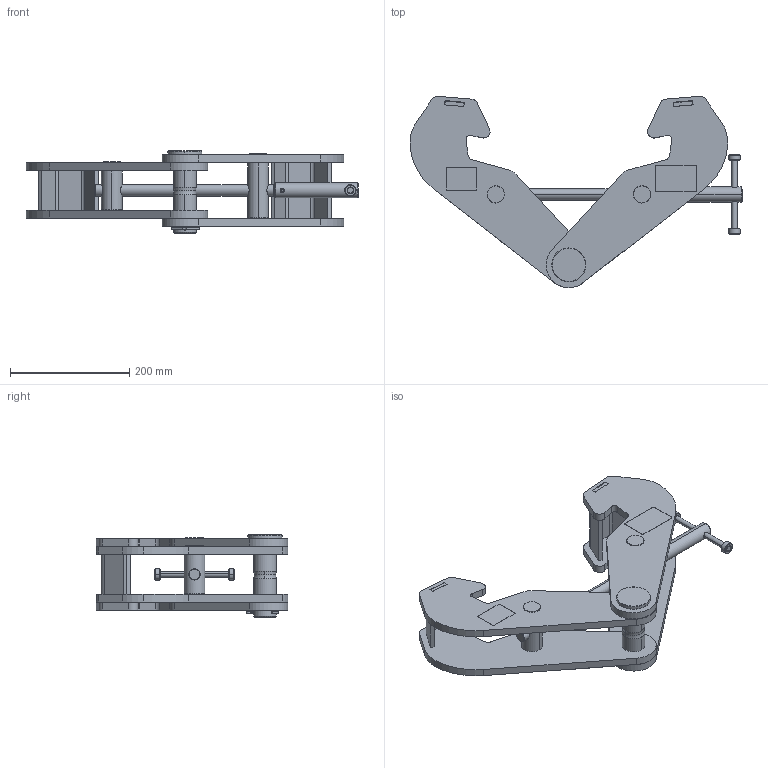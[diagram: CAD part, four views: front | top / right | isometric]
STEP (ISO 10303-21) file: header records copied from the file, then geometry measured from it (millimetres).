
FILE_DESCRIPTION (( 'STEP AP214' ), '1' );
FILE_NAME ('OZ12BCA.STEP', '2025-11-07T20:30:44', ( '' ), ( '' ), 'SwSTEP 2.0', 'SolidWorks 2023', '' );
FILE_SCHEMA (( 'AUTOMOTIVE_DESIGN' ));
Length unit declared in the file: inch
Products named in the file (25): 505-0094; 505-0200; 502-0301; 599-0970; 504-0300; 505-0090; 505-0203; 505-0202; 500-0302; 505-0040; 505-0960; 505-0970; 344-02500-100_98296A926; 500-0303; OZ12BCA; 350-01800-250_bent; 505-0093; 505-0041; 505-0000_bent cotter pin; 505-0301; 090-0980; 505-0201; 505-0300; 504-0301; 502-0041
Assembly tree (28 placements, depth 4):
  OZ12BCA
    505-0000_bent cotter pin
      505-0040
        505-0200  x2
        505-0201
        504-0300
      505-0041
        505-0200  x2
        505-0202
        504-0301
      502-0041
        502-0301
        500-0302
        500-0303  x2
      505-0301
      344-02500-100_98296A926
      350-01800-250_bent
      505-0300
      505-0203
    505-0090
      505-0093
        505-0970
        599-0970
        090-0980
      505-0094
        505-0960
Bounding box: 557.09 x 321.11 x 138.11 mm (x, y, z)
Volume: 2485767.8 mm3; surface area: 524358.1 mm2
Topology: 21 solids, 21 shells, 393 faces, 932 edges, 586 vertices
Faces by surface type: plane 173, cylinder 143, cone 34, torus 27, bspline 16
Entity records: 24455 total; most frequent: CARTESIAN_POINT 16931, DIRECTION 1476, ORIENTED_EDGE 1340, EDGE_CURVE 670, AXIS2_PLACEMENT_3D 561, VERTEX_POINT 414, VECTOR 354, LINE 354
